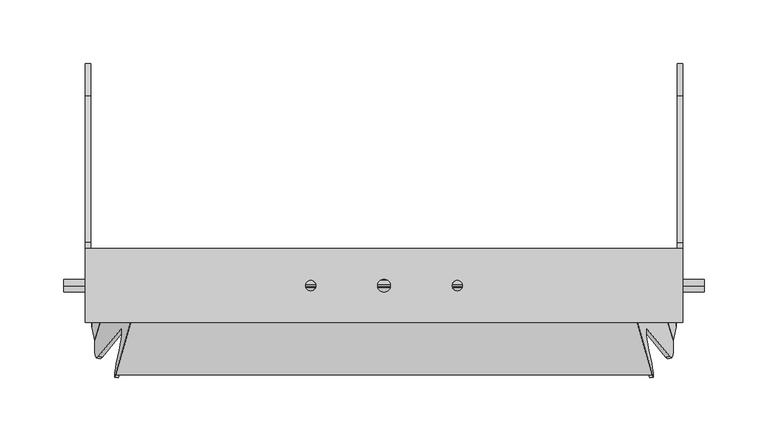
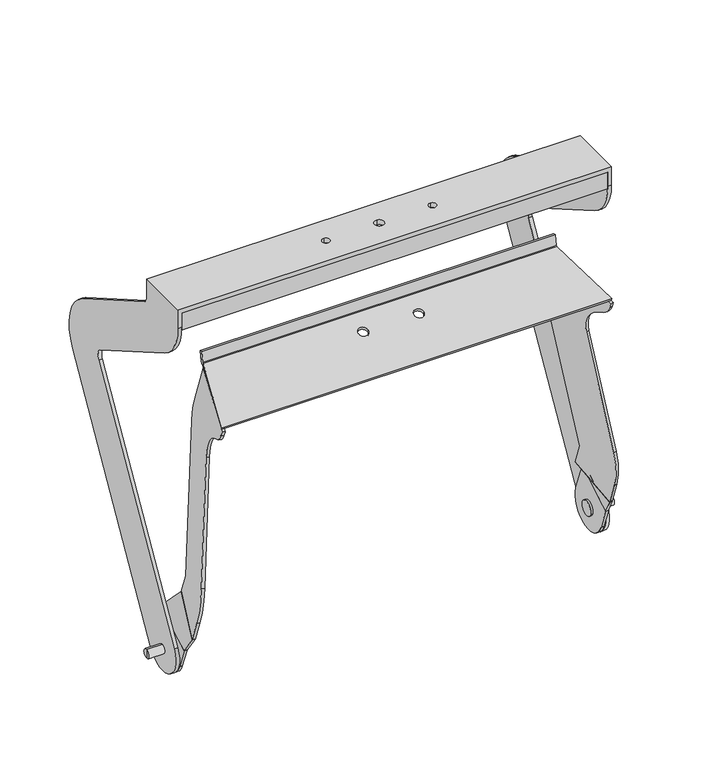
"""IFC4 building model written with IfcOpenShell, lengths in millimetres: proxy geometry, d&b M-Series M6 Flying Bracket : M6 Flying Bracket."""

from ifc_helpers import new_model, si_unit, point, frame, frame_2d, origin, place, context, project, spatial, polyline, circle_curve, trimmed, segment, composite_curve, outline, extrude, source, transform, mapped, element, save
from ifc_brep_helpers import plane_surface, cylinder_surface, revolved_surface, spline_surface, advanced_brep


def communication_devices_43ad5a2a(model_context):
    return source(origin(), model_context, "Body", "SolidModel", [
        advanced_brep(
        [(226.0004126, 11.9130603, 410.3597447), (228.9943528, 11.9797258, 410.2427054), (228.9935695, -32.0897177, 385.1408344), (225.9996292, -32.1563832, 385.2578738), (210.7972831, -1.2021325, 427.8894224), (223.7382354, -43.5704321, 403.0864598), (226.6360129, -42.8408011, 403.3520238), (213.6950606, -0.4725015, 428.1549864)],
        [
            (0, 1),
            (1, 2),
            (2, 3),
            (3, 0),
            (4, 5),
            (5, 6),
            (6, 7),
            (7, 4),
            (7, 1),
            (0, 4),
            (5, 3),
            (2, 6),
        ],
        [
            plane_surface(frame((227.496991, -10.0883287, 397.7502896), z_axis=(-0.044943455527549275, 0.4944399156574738, -0.8680491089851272), x_axis=(-1.5446243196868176e-05, -0.8689274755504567, -0.4949394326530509))),
            plane_surface(frame((218.716648, -22.0214668, 415.6207231), z_axis=(0.044943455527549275, -0.4944399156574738, 0.8680491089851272), x_axis=(-1.5446243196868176e-05, -0.8689274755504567, -0.4949394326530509))),
            spline_surface(1, 1, [[(210.7972831, -1.2021325, 427.8894224), (226.0004126, 11.9130603, 410.3597447)], [(213.6950606, -0.4725015, 428.1549864), (228.9943528, 11.9797258, 410.2427054)]], [2, 2], [2, 2], [0.0, 1.0], [0.0, 1.0]),
            spline_surface(1, 1, [[(226.6360129, -42.8408011, 403.3520238), (228.9935695, -32.0897177, 385.1408344)], [(223.7382354, -43.5704321, 403.0864598), (225.9996292, -32.1563832, 385.2578738)]], [2, 2], [2, 2], [0.0, 1.0], [0.0, 1.0]),
            spline_surface(1, 1, [[(223.7382354, -43.5704321, 403.0864598), (225.9996292, -32.1563832, 385.2578738)], [(210.7972831, -1.2021325, 427.8894224), (226.0004126, 11.9130603, 410.3597447)]], [2, 2], [2, 2], [0.0, 1.0], [0.0, 1.0]),
            spline_surface(1, 1, [[(213.6950606, -0.4725015, 428.1549864), (228.9943528, 11.9797258, 410.2427054)], [(226.6360129, -42.8408011, 403.3520238), (228.9935695, -32.0897177, 385.1408344)]], [2, 2], [2, 2], [0.0, 1.0], [0.0, 1.0]),
        ],
        [
            (0, [[1, 2, 3, 4]]),
            (1, [[5, 6, 7, 8]]),
            (2, [[-8, 9, -1, 10]]),
            (3, [[-6, 11, -3, 12]]),
            (4, [[-5, -10, -4, -11]]),
            (5, [[-7, -12, -2, -9]]),
        ],
    ),
        advanced_brep(
        [(-226.0004126, 11.9130603, 410.3597447), (-225.9996292, -32.1563832, 385.2578738), (-228.9935695, -32.0897177, 385.1408344), (-228.9943528, 11.9797258, 410.2427054), (-210.7972831, -1.2021325, 427.8894224), (-213.6950606, -0.4725015, 428.1549864), (-226.6360129, -42.8408011, 403.3520238), (-223.7382354, -43.5704321, 403.0864598)],
        [
            (0, 1),
            (1, 2),
            (2, 3),
            (3, 0),
            (4, 5),
            (5, 6),
            (6, 7),
            (7, 4),
            (4, 0),
            (3, 5),
            (6, 2),
            (1, 7),
        ],
        [
            plane_surface(frame((-227.496991, -10.0883287, 397.7502896), z_axis=(0.0449434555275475, 0.4944399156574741, -0.8680491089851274), x_axis=(0.9989895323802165, -0.022244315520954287, 0.0390525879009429))),
            plane_surface(frame((-218.716648, -22.0214668, 415.6207231), z_axis=(-0.0449434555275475, -0.4944399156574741, 0.8680491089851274), x_axis=(0.9989895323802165, -0.022244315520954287, 0.0390525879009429))),
            spline_surface(1, 1, [[(-213.6950606, -0.4725015, 428.1549864), (-228.9943528, 11.9797258, 410.2427054)], [(-210.7972831, -1.2021325, 427.8894224), (-226.0004126, 11.9130603, 410.3597447)]], [2, 2], [2, 2], [0.0, 1.0], [0.0, 1.0]),
            spline_surface(1, 1, [[(-223.7382354, -43.5704321, 403.0864598), (-225.9996292, -32.1563832, 385.2578738)], [(-226.6360129, -42.8408011, 403.3520238), (-228.9935695, -32.0897177, 385.1408344)]], [2, 2], [2, 2], [0.0, 1.0], [0.0, 1.0]),
            spline_surface(1, 1, [[(-210.7972831, -1.2021325, 427.8894224), (-226.0004126, 11.9130603, 410.3597447)], [(-223.7382354, -43.5704321, 403.0864598), (-225.9996292, -32.1563832, 385.2578738)]], [2, 2], [2, 2], [0.0, 1.0], [0.0, 1.0]),
            spline_surface(1, 1, [[(-226.6360129, -42.8408011, 403.3520238), (-228.9935695, -32.0897177, 385.1408344)], [(-213.6950606, -0.4725015, 428.1549864), (-228.9943528, 11.9797258, 410.2427054)]], [2, 2], [2, 2], [0.0, 1.0], [0.0, 1.0]),
        ],
        [
            (0, [[1, 2, 3, 4]]),
            (1, [[5, 6, 7, 8]]),
            (2, [[-5, 9, -4, 10]]),
            (3, [[-7, 11, -2, 12]]),
            (4, [[-8, -12, -1, -9]]),
            (5, [[-6, -10, -3, -11]]),
        ],
    ),
        extrude(outline(composite_curve([segment(polyline([(104.5689879, 0.0), (180.1971911, 0.0), (180.1971912, -6.0833656)]), True, "CONTINUOUS"), segment(trimmed(circle_curve(frame_2d((162.8141161, -6.0833657)), 17.383075), [point((180.1971912, -6.0833656))], [point((175.3152275, -18.1620042))], False, "CARTESIAN"), True, "CONTINUOUS"), segment(polyline([(175.3152275, -18.1620042), (167.0292159, -26.7378345)]), True, "CONTINUOUS"), segment(trimmed(circle_curve(frame_2d((188.6038419, -47.5833499)), 30.0), [point((167.0292159, -26.7378345))], [point((162.6230798, -62.58335))], True, "CARTESIAN"), True, "CONTINUOUS"), segment(polyline([(162.6230798, -62.58335), (229.5617624, -178.5245492)]), True, "CONTINUOUS"), segment(trimmed(circle_curve(frame_2d((160.2797302, -218.5245492)), 80.0), [point((229.5617624, -178.5245492))], [point((240.2797302, -218.5245492))], False, "CARTESIAN"), True, "CONTINUOUS"), segment(polyline([(240.2797302, -218.5245492), (240.2797302, -244.0319149), (190.2797301, -235.2155659), (190.2797302, -210.4860734), (111.2677177, -73.6332533)]), True, "CONTINUOUS"), segment(trimmed(circle_curve(frame_2d((154.5689878, -48.6332534)), 50.0), [point((111.2677177, -73.6332533))], [point((104.5689879, -48.6332533))], False, "CARTESIAN"), True, "CONTINUOUS"), segment(polyline([(104.5689879, -48.6332533), (104.5689879, 0.0)]), True, "CONTINUOUS")], self_intersect=False)), frame((-161.5492651, 91.0612501, 711.7817243), z_axis=(-0.9659258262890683, 0.2432103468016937, 0.08852132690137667), x_axis=(-0.25881904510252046, -0.907673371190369, -0.3303660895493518)), (0.0, 0.0, 1.0), 3.0),
        extrude(outline(composite_curve([segment(trimmed(circle_curve(frame_2d((-1e-07, -8.2)), 8.2), [point((-1e-07, -16.4))], [point((0.0, 0.0))], False, "CARTESIAN"), True, "CONTINUOUS"), segment(trimmed(circle_curve(frame_2d((-1e-07, -8.2)), 8.2), [point((0.0, 0.0))], [point((-1e-07, -16.4))], False, "CARTESIAN"), True, "CONTINUOUS")], self_intersect=False)), frame((-225.9992946, -7.7048322, 367.1925312), z_axis=(0.9999999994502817, -7.2124909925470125e-06, 3.236381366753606e-05), x_axis=(-3.287885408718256e-05, -0.34202014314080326, 0.9396926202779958)), (0.0, 0.0, 1.0), 2.2918383),
        extrude(outline(composite_curve([segment(polyline([(-23.5008597, 361.4729723), (-32.1604625, 385.2650355), (11.9175993, 410.3517759), (23.4837713, 378.5739795)]), True, "CONTINUOUS"), segment(trimmed(circle_curve(frame_2d((-0.0085442, 370.0234759)), 25.0), [point((23.4837713, 378.5739795))], [point((-23.5008597, 361.4729723))], False, "CARTESIAN"), True, "CONTINUOUS")], self_intersect=False)), frame((-229.0, 0.0, 0.0), z_axis=(1.0, 0.0, 0.0), x_axis=(0.0, 1.0, 0.0)), (0.0, 0.0, 1.0), 3.0),
        extrude(outline(composite_curve([segment(polyline([(-48.6332534, 0.0), (0.0, 0.0)]), True, "CONTINUOUS"), segment(trimmed(circle_curve(frame_2d((0.0, -50.0)), 50.0), [point((0.0, 0.0))], [point((25.0, -6.6987298))], False, "CARTESIAN"), True, "CONTINUOUS"), segment(polyline([(25.0, -6.6987298), (161.85282, -85.7107423), (186.5823125, -85.7107423), (195.3986616, -135.7107423), (169.8912959, -135.7107423)]), True, "CONTINUOUS"), segment(trimmed(circle_curve(frame_2d((169.8912958, -55.7107423)), 80.0), [point((169.8912959, -135.7107423))], [point((129.8912959, -124.9927745))], False, "CARTESIAN"), True, "CONTINUOUS"), segment(polyline([(129.8912959, -124.9927745), (13.9500966, -58.054092)]), True, "CONTINUOUS"), segment(trimmed(circle_curve(frame_2d((-1.0499034, -84.0348541)), 30.0), [point((13.9500966, -58.054092))], [point((-21.8954188, -62.460228))], True, "CARTESIAN"), True, "CONTINUOUS"), segment(polyline([(-21.8954188, -62.460228), (-30.4712491, -70.7462396)]), True, "CONTINUOUS"), segment(trimmed(circle_curve(frame_2d((-42.5498876, -58.2451282)), 17.383075), [point((-30.4712491, -70.7462396))], [point((-42.5498877, -75.6282033))], False, "CARTESIAN"), True, "CONTINUOUS"), segment(polyline([(-42.5498877, -75.6282033), (-48.6332533, -75.6282032), (-48.6332534, 0.0)]), True, "CONTINUOUS")], self_intersect=False)), frame((188.6137106, 12.7803166, 631.5353674), z_axis=(0.9659258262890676, 0.2432103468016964, 0.08852132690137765), x_axis=(0.0, 0.3420201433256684, -0.9396926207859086)), (0.0, 0.0, 1.0), 3.0),
        extrude(outline(composite_curve([segment(trimmed(circle_curve(frame_2d((0.0, -8.2)), 8.2), [point((1e-07, -16.4))], [point((0.0, 0.0))], False, "CARTESIAN"), True, "CONTINUOUS"), segment(trimmed(circle_curve(frame_2d((0.0, -8.2)), 8.2), [point((0.0, 0.0))], [point((1e-07, -16.4))], False, "CARTESIAN"), True, "CONTINUOUS")], self_intersect=False)), frame((225.9970197, -7.7048317, 367.1925314), z_axis=(-0.9999999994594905, -1.1245230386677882e-05, 3.089601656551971e-05), x_axis=(-3.287885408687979e-05, 0.34202014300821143, -0.9396926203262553)), (0.0, 0.0, 1.0), 2.2727968),
        extrude(outline(composite_curve([segment(polyline([(-23.5008597, 361.4729723), (-32.1604625, 385.2650355), (11.9175993, 410.3517759), (23.4837713, 378.5739795)]), True, "CONTINUOUS"), segment(trimmed(circle_curve(frame_2d((-0.0085442, 370.0234759)), 25.0), [point((23.4837713, 378.5739795))], [point((-23.5008597, 361.4729723))], False, "CARTESIAN"), True, "CONTINUOUS")], self_intersect=False)), frame((226.0, 0.0, 0.0), z_axis=(1.0, 0.0, 0.0), x_axis=(0.0, 1.0, 0.0)), (0.0, 0.0, 1.0), 3.0),
        advanced_brep(
        [(-190.7794274, -1.5823421, 681.2547476), (-210.3312721, -70.1502823, 656.2980584), (210.3312721, -70.1502823, 656.2980584), (190.7794274, -1.5823421, 681.2547476), (24.75, -22.2476505, 673.7331905), (35.25, -22.2476505, 673.7331905), (-24.75, -22.2476505, 673.7331905), (-35.25, -22.2476505, 673.7331905), (190.7794274, -0.5562817, 678.4356698), (210.3312721, -69.1242219, 653.4789805), (-210.3312721, -69.1242219, 653.4789805), (-190.7794274, -0.5562817, 678.4356698), (35.25, -21.2215901, 670.9141126), (24.75, -21.2215901, 670.9141126), (-35.25, -21.2215901, 670.9141126), (-24.75, -21.2215901, 670.9141126), (-190.7794274, 1.0439706, 693.2699218), (-190.7794274, 3.9983938, 692.7489773), (-190.7794274, 2.0148687, 681.4998476), (-190.7794274, -0.9395545, 682.0207921), (190.7794274, 1.0439706, 693.2699218), (190.7794274, -0.9395545, 682.0207921), (190.7794274, 2.0148687, 681.4998476), (190.7794274, 3.9983938, 692.7489773)],
        [
            (0, 1),
            (1, 2),
            (2, 3),
            (3, 0),
            (4, 5, circle_curve(frame((30.0, -22.2476505, 673.7331905), z_axis=(0.0, 0.34202014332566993, -0.9396926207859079), x_axis=(-1.0, 0.0, 0.0)), 5.25)),
            (5, 4, circle_curve(frame((30.0, -22.2476505, 673.7331905), z_axis=(0.0, 0.34202014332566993, -0.9396926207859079), x_axis=(-1.0, 0.0, 0.0)), 5.25)),
            (6, 7, circle_curve(frame((-30.0, -22.2476505, 673.7331905), z_axis=(0.0, 0.34202014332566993, -0.9396926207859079), x_axis=(1.0, 0.0, 0.0)), 5.25)),
            (7, 6, circle_curve(frame((-30.0, -22.2476505, 673.7331905), z_axis=(0.0, 0.34202014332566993, -0.9396926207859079), x_axis=(1.0, 0.0, 0.0)), 5.25)),
            (8, 9),
            (9, 10),
            (10, 11),
            (11, 8),
            (12, 13, circle_curve(frame((30.0, -21.2215901, 670.9141126), z_axis=(0.0, -0.34202014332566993, 0.9396926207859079), x_axis=(-1.0, 0.0, 0.0)), 5.25)),
            (13, 12, circle_curve(frame((30.0, -21.2215901, 670.9141126), z_axis=(0.0, -0.34202014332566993, 0.9396926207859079), x_axis=(-1.0, 0.0, 0.0)), 5.25)),
            (14, 15, circle_curve(frame((-30.0, -21.2215901, 670.9141126), z_axis=(0.0, -0.34202014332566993, 0.9396926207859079), x_axis=(1.0, 0.0, 0.0)), 5.25)),
            (15, 14, circle_curve(frame((-30.0, -21.2215901, 670.9141126), z_axis=(0.0, -0.34202014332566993, 0.9396926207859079), x_axis=(1.0, 0.0, 0.0)), 5.25)),
            (1, 10),
            (9, 2),
            (16, 17),
            (17, 18),
            (18, 11, circle_curve(frame((-190.7794274, -1.9243625, 682.1944403), z_axis=(-1.0, 0.0, 0.0), x_axis=(0.0, -0.9396926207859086, -0.3420201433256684)), 4.0000002)),
            (11, 0),
            (0, 19, circle_curve(frame((-190.7794274, -1.9243625, 682.1944403), z_axis=(1.0, 0.0, 0.0), x_axis=(0.0, -0.9396926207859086, -0.3420201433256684)), 1.0000002)),
            (19, 16),
            (20, 21),
            (21, 3, circle_curve(frame((190.7794274, -1.9243625, 682.1944403), z_axis=(-1.0, 0.0, 0.0), x_axis=(0.0, -0.9396926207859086, -0.3420201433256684)), 1.0000002)),
            (3, 8),
            (8, 22, circle_curve(frame((190.7794274, -1.9243625, 682.1944403), z_axis=(1.0, 0.0, 0.0), x_axis=(0.0, -0.9396926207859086, -0.3420201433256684)), 4.0000002)),
            (22, 23),
            (23, 20),
            (16, 20),
            (23, 17),
            (22, 18),
            (21, 19),
            (12, 5),
            (4, 13),
            (14, 7),
            (6, 15),
        ],
        [
            plane_surface(frame((-115.0144144, -1.5823421, 681.2547476), z_axis=(0.0, -0.34202014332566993, 0.9396926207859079), x_axis=(-1.0, 0.0, 0.0))),
            plane_surface(frame((-115.0144144, -0.5562817, 678.4356698), z_axis=(0.0, 0.34202014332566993, -0.9396926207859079), x_axis=(1.0, 0.0, 0.0))),
            plane_surface(frame((-210.3312721, -70.1502823, 656.2980584), z_axis=(0.0, -0.9396926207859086, -0.3420201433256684), x_axis=(0.0, 0.3420201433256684, -0.9396926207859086))),
            plane_surface(frame((-190.7794274, 3.9983938, 692.7489773), z_axis=(-1.0, 0.0, 0.0), x_axis=(0.0, 0.9848077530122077, -0.1736481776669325))),
            plane_surface(frame((190.7794274, 3.9983938, 692.7489773), z_axis=(1.0, 0.0, 0.0), x_axis=(0.0, -0.9848077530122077, 0.1736481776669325))),
            plane_surface(frame((-190.7794274, 1.0439706, 693.2699218), z_axis=(0.0, 0.1736481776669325, 0.9848077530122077), x_axis=(1.0, 0.0, 0.0))),
            plane_surface(frame((-190.7794274, 3.9983938, 692.7489773), z_axis=(0.0, 0.9848077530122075, -0.1736481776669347), x_axis=(1.0, 0.0, 0.0))),
            cylinder_surface(frame((190.7794274, -1.9243625, 682.1944403), z_axis=(-1.0, 0.0, 0.0), x_axis=(0.0, -0.9396926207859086, -0.3420201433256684)), 4.0000002),
            revolved_surface(polyline([(190.7794274, -2.8640553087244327, 681.8524200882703), (-190.7794274, -2.8640553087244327, 681.8524200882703)]), (190.7794274, -1.9243625, 682.1944403), (1.0, 0.0, 0.0)),
            plane_surface(frame((-190.7794274, -0.9395545, 682.0207921), z_axis=(0.0, -0.9848077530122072, 0.1736481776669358), x_axis=(1.0, 0.0, 0.0))),
            plane_surface(frame((-190.7794274, -1.5823421, 681.2547476), z_axis=(-0.9659258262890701, 0.24321034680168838, 0.08852132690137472), x_axis=(0.0, 0.3420201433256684, -0.9396926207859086))),
            plane_surface(frame((210.3312721, -70.1502823, 656.2980584), z_axis=(0.9659258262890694, 0.2432103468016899, 0.08852132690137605), x_axis=(0.0, 0.34202014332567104, -0.9396926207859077))),
            revolved_surface(polyline([(24.75, -22.24765053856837, 673.7331904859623), (24.75, -21.2215901, 670.9141126)]), (30.0, -21.2215901, 670.9141126), (0.0, -0.34202014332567, 0.9396926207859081)),
            revolved_surface(polyline([(-24.75, -22.24765053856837, 673.7331904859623), (-24.75, -21.2215901, 670.9141126)]), (-30.0, -21.2215901, 670.9141126), (0.0, -0.34202014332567, 0.9396926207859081)),
        ],
        [
            (0, [[1, 2, 3, 4], [5, 6], [7, 8]]),
            (1, [[9, 10, 11, 12], [13, 14], [15, 16]]),
            (2, [[-2, 17, -10, 18]]),
            (3, [[19, 20, 21, 22, 23, 24]]),
            (4, [[25, 26, 27, 28, 29, 30]]),
            (5, [[-19, 31, -30, 32]]),
            (6, [[-20, -32, -29, 33]]),
            (7, [[-21, -33, -28, -12]]),
            (8, [[-23, -4, -26, 34]]),
            (9, [[-24, -34, -25, -31]]),
            (10, [[-1, -22, -11, -17]]),
            (11, [[-3, -18, -9, -27]]),
            (12, [[35, -5, 36, -13]]),
            (12, [[-35, -14, -36, -6]]),
            (13, [[37, -7, 38, -15]]),
            (13, [[-37, -16, -38, -8]]),
        ],
    ),
        advanced_brep(
        [(229.9958719, 21.4505375, 357.6155643), (229.9958719, -21.8496092, 382.6146502), (229.9958719, 119.2534555, 627.0339608), (229.9958719, 115.5929931, 640.6938878), (229.9958719, -4.0, 709.7409269), (229.9958719, -29.0, 753.0421971), (229.9958719, -29.0, 769.0421971), (229.9958719, 29.0, 769.0421971), (229.9958719, 29.0, 754.1968976), (229.9958719, 34.0, 745.5366436), (229.9958719, 149.2613382, 678.9904776), (229.9958719, 167.5626065, 610.6892103), (233.9958719, 167.5626065, 610.6892103), (233.9958719, 21.4505375, 357.6155643), (233.9958719, 149.2613382, 678.9904776), (233.9958719, 119.2534555, 627.0339608), (233.9958719, 115.5929931, 640.6938878), (233.9958719, -21.8496092, 382.6146502), (233.9958719, 34.0, 745.5366436), (233.9958719, 29.0, 754.1968976), (233.9958719, -4.0, 709.7409269), (233.9958719, -29.0, 753.0421971), (233.9958719, 29.0, 774.0421971), (-233.9958719, 29.0, 774.0421971), (-233.9958719, -29.0, 774.0421971), (233.9958719, -29.0, 774.0421971), (-57.5, -4.0277425, 774.0421971), (-57.5, 4.0277425, 774.0421971), (0.0, -5.0, 774.0421971), (0.0, 5.0, 774.0421971), (57.5, -4.0, 774.0421971), (57.5, 4.0, 774.0421971), (-229.9958719, -29.0, 769.0421971), (-229.9958719, 29.0, 769.0421971), (-57.5, -4.0277425, 769.0421971), (-57.5, 4.0277425, 769.0421971), (0.0, -5.0, 769.0421971), (0.0, 5.0, 769.0421971), (57.5, -4.0, 769.0421971), (57.5, 4.0, 769.0421971), (-229.9958719, 29.0, 754.1968976), (-233.9958719, 29.0, 754.1968976), (-233.9958719, 34.0, 745.5366436), (-233.9958719, 149.2613397, 678.9904781), (-233.9958719, 167.5626099, 610.6892079), (-233.9958719, 21.4504736, 357.6155643), (-233.9958719, -21.8497087, 382.6137924), (-233.9958719, 119.2534368, 627.0339741), (-233.9958719, 115.5929847, 640.693885), (-233.9958719, -4.0, 709.7409269), (-233.9958719, -29.0, 753.0421971), (-229.9958719, -29.0, 753.0421971), (-229.9958719, 21.4504736, 357.6155643), (-229.9958719, 167.5626099, 610.6892079), (-229.9958719, 149.2613397, 678.9904781), (-229.9958719, 34.0, 745.5366436), (-229.9958719, -4.0, 709.7409269), (-229.9958719, 115.5929847, 640.693885), (-229.9958719, 119.2534368, 627.0339741), (-229.9958719, -21.8497087, 382.6137924)],
        [
            (0, 1, circle_curve(frame((229.9958719, -0.1993569, 370.1154171), z_axis=(-1.0, 0.0, 0.0), x_axis=(0.0, 1.0, 0.0)), 24.999285)),
            (1, 2),
            (2, 3, circle_curve(frame((229.9958719, 110.5929927, 632.0336212), z_axis=(1.0, 0.0, 0.0), x_axis=(0.0, 1.0, 0.0)), 10.0000111)),
            (3, 4),
            (4, 5, circle_curve(frame((229.9958719, 21.0, 753.0421971), z_axis=(-1.0, 0.0, 0.0), x_axis=(0.0, 1.0, 0.0)), 50.0)),
            (5, 6),
            (6, 7),
            (7, 8),
            (8, 9, circle_curve(frame((229.9958719, 39.0, 754.1968976), z_axis=(1.0, 0.0, 0.0), x_axis=(0.0, 1.0, 0.0)), 10.0)),
            (9, 10),
            (10, 11, circle_curve(frame((229.9958719, 124.2613382, 635.6892096), z_axis=(-1.0, 0.0, 0.0), x_axis=(0.0, 1.0, 0.0)), 49.999998)),
            (11, 0),
            (11, 12),
            (12, 13),
            (13, 0),
            (10, 14),
            (14, 12, circle_curve(frame((233.9958719, 124.2613382, 635.6892096), z_axis=(-1.0, 0.0, 0.0), x_axis=(0.0, 1.0, 0.0)), 49.999998)),
            (2, 15),
            (15, 16, circle_curve(frame((233.9958719, 110.5929927, 632.0336212), z_axis=(1.0, 0.0, 0.0), x_axis=(0.0, 1.0, 0.0)), 10.0000111)),
            (16, 3),
            (1, 17),
            (17, 15),
            (9, 18),
            (18, 14),
            (8, 19),
            (19, 18, circle_curve(frame((233.9958719, 39.0, 754.1968976), z_axis=(1.0, 0.0, 0.0), x_axis=(0.0, 1.0, 0.0)), 10.0)),
            (4, 20),
            (20, 21, circle_curve(frame((233.9958719, 21.0, 753.0421971), z_axis=(-1.0, 0.0, 0.0), x_axis=(0.0, 1.0, 0.0)), 50.0)),
            (21, 5),
            (16, 20),
            (13, 17, circle_curve(frame((233.9958719, -0.1993569, 370.1154171), z_axis=(-1.0, 0.0, 0.0), x_axis=(0.0, 1.0, 0.0)), 24.999285)),
            (22, 23),
            (23, 24),
            (24, 25),
            (25, 22),
            (26, 27, circle_curve(frame((-57.5, 0.0, 774.0421971), z_axis=(0.0, 0.0, -1.0), x_axis=(0.0, 1.0, 0.0)), 4.0277425)),
            (27, 26, circle_curve(frame((-57.5, 0.0, 774.0421971), z_axis=(0.0, 0.0, -1.0), x_axis=(0.0, 1.0, 0.0)), 4.0277425)),
            (28, 29, circle_curve(frame((0.0, 0.0, 774.0421971), z_axis=(0.0, 0.0, -1.0), x_axis=(0.0, 1.0, 0.0)), 5.0)),
            (29, 28, circle_curve(frame((0.0, 0.0, 774.0421971), z_axis=(0.0, 0.0, -1.0), x_axis=(0.0, 1.0, 0.0)), 5.0)),
            (30, 31, circle_curve(frame((57.5, 0.0, 774.0421971), z_axis=(0.0, 0.0, -1.0), x_axis=(0.0, 1.0, 0.0)), 4.0)),
            (31, 30, circle_curve(frame((57.5, 0.0, 774.0421971), z_axis=(0.0, 0.0, -1.0), x_axis=(0.0, 1.0, 0.0)), 4.0)),
            (32, 33),
            (33, 7),
            (6, 32),
            (34, 35, circle_curve(frame((-57.5, 0.0, 769.0421971), z_axis=(0.0, 0.0, 1.0), x_axis=(0.0, 1.0, 0.0)), 4.0277425)),
            (35, 34, circle_curve(frame((-57.5, 0.0, 769.0421971), z_axis=(0.0, 0.0, 1.0), x_axis=(0.0, 1.0, 0.0)), 4.0277425)),
            (36, 37, circle_curve(frame((0.0, 0.0, 769.0421971), z_axis=(0.0, 0.0, 1.0), x_axis=(0.0, 1.0, 0.0)), 5.0)),
            (37, 36, circle_curve(frame((0.0, 0.0, 769.0421971), z_axis=(0.0, 0.0, 1.0), x_axis=(0.0, 1.0, 0.0)), 5.0)),
            (38, 39, circle_curve(frame((57.5, 0.0, 769.0421971), z_axis=(0.0, 0.0, 1.0), x_axis=(0.0, 1.0, 0.0)), 4.0)),
            (39, 38, circle_curve(frame((57.5, 0.0, 769.0421971), z_axis=(0.0, 0.0, 1.0), x_axis=(0.0, 1.0, 0.0)), 4.0)),
            (22, 19),
            (33, 40),
            (40, 41),
            (41, 23),
            (41, 42, circle_curve(frame((-233.9958719, 39.0, 754.1968976), z_axis=(1.0, 0.0, 0.0), x_axis=(0.0, 1.0, 0.0)), 10.0)),
            (42, 43),
            (43, 44, circle_curve(frame((-233.9958719, 124.2613397, 635.6892079), z_axis=(-1.0, 0.0, 0.0), x_axis=(0.0, 1.0, 0.0)), 50.0)),
            (44, 45),
            (45, 46, circle_curve(frame((-233.9958719, -0.1993699, 370.1151072), z_axis=(-1.0, 0.0, 0.0), x_axis=(0.0, 1.0, 0.0)), 24.9990859)),
            (46, 47),
            (47, 48, circle_curve(frame((-233.9958719, 110.5929847, 632.0336309), z_axis=(1.0, 0.0, 0.0), x_axis=(0.0, 1.0, 0.0)), 10.0)),
            (48, 49),
            (49, 50, circle_curve(frame((-233.9958719, 21.0, 753.0421971), z_axis=(-1.0, 0.0, 0.0), x_axis=(0.0, 1.0, 0.0)), 50.0)),
            (50, 24),
            (50, 51),
            (51, 32),
            (21, 25),
            (26, 34),
            (35, 27),
            (28, 36),
            (37, 29),
            (30, 38),
            (39, 31),
            (52, 53),
            (53, 54, circle_curve(frame((-229.9958719, 124.2613397, 635.6892079), z_axis=(1.0, 0.0, 0.0), x_axis=(0.0, 1.0, 0.0)), 50.0)),
            (54, 55),
            (55, 40, circle_curve(frame((-229.9958719, 39.0, 754.1968976), z_axis=(-1.0, 0.0, 0.0), x_axis=(0.0, 1.0, 0.0)), 10.0)),
            (51, 56, circle_curve(frame((-229.9958719, 21.0, 753.0421971), z_axis=(1.0, 0.0, 0.0), x_axis=(0.0, 1.0, 0.0)), 50.0)),
            (56, 57),
            (57, 58, circle_curve(frame((-229.9958719, 110.5929847, 632.0336309), z_axis=(-1.0, 0.0, 0.0), x_axis=(0.0, 1.0, 0.0)), 10.0)),
            (58, 59),
            (59, 52, circle_curve(frame((-229.9958719, -0.1993699, 370.1151072), z_axis=(1.0, 0.0, 0.0), x_axis=(0.0, 1.0, 0.0)), 24.9990859)),
            (52, 45),
            (44, 53),
            (58, 47),
            (46, 59),
            (43, 54),
            (57, 48),
            (56, 49),
            (55, 42),
        ],
        [
            plane_surface(frame((229.9958719, 167.5626065, 610.6892103), z_axis=(-1.0, 0.0, 0.0), x_axis=(0.0, -0.499999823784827, -0.8660255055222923))),
            plane_surface(frame((233.9958719, 21.4505375, 357.6155643), z_axis=(0.0, 0.8660255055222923, -0.499999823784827), x_axis=(-1.0, 0.0, 0.0))),
            cylinder_surface(frame((229.9958719, 124.2613382, 635.6892096), z_axis=(1.0, 0.0, 0.0), x_axis=(0.0, 1.0, 0.0)), 49.999998),
            revolved_surface(polyline([(229.9958719, 120.59300379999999, 632.0336212), (233.9958719, 120.59300379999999, 632.0336212)]), (229.9958719, 110.5929927, 632.0336212), (-1.0, 0.0, 0.0)),
            plane_surface(frame((233.9958719, 119.2534555, 627.0339608), z_axis=(0.0, -0.8660445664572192, 0.49996680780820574), x_axis=(-1.0, 0.0, 0.0))),
            plane_surface(frame((233.9958719, 149.2613382, 678.9904776), z_axis=(0.0, 0.500000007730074, 0.8660253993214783), x_axis=(-1.0, 0.0, 0.0))),
            revolved_surface(polyline([(229.9958719, 49.0, 754.1968976), (233.9958719, 49.0, 754.1968976)]), (229.9958719, 39.0, 754.1968976), (-1.0, 0.0, 0.0)),
            cylinder_surface(frame((229.9958719, 21.0, 753.0421971), z_axis=(1.0, 0.0, 0.0), x_axis=(0.0, 1.0, 0.0)), 50.0),
            plane_surface(frame((233.9958719, -4.0, 709.7409269), z_axis=(0.0, -0.49999995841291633, -0.8660254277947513), x_axis=(-1.0, 0.0, 0.0))),
            cylinder_surface(frame((229.9958719, -0.1993569, 370.1154171), z_axis=(1.0, 0.0, 0.0), x_axis=(0.0, 1.0, 0.0)), 24.999285),
            plane_surface(frame((-87.0082463, 29.0, 774.0421971), z_axis=(0.0, 0.0, 1.0), x_axis=(-1.0, 0.0, 0.0))),
            plane_surface(frame((-87.0082463, 29.0, 769.0421971), z_axis=(0.0, 0.0, -1.0), x_axis=(1.0, 0.0, 0.0))),
            plane_surface(frame((233.9958719, 29.0, 774.0421971), z_axis=(0.0, 1.0, 0.0), x_axis=(0.0, 0.0, -1.0))),
            plane_surface(frame((-233.9958719, 29.0, 774.0421971), z_axis=(-1.0, 0.0, 0.0), x_axis=(0.0, 0.0, -1.0))),
            plane_surface(frame((-233.9958719, -29.0, 774.0421971), z_axis=(0.0, -1.0, 0.0), x_axis=(0.0, 0.0, -1.0))),
            plane_surface(frame((233.9958719, -29.0, 774.0421971), z_axis=(1.0, 0.0, 0.0), x_axis=(0.0, 0.0, -1.0))),
            revolved_surface(polyline([(-57.5, 4.0277425, 769.0421971), (-57.5, 4.0277425, 774.0421971)]), (-57.5, 0.0, 774.0421971), (0.0, 0.0, -1.0)),
            revolved_surface(polyline([(0.0, 5.0, 769.0421971), (0.0, 5.0, 774.0421971)]), (0.0, 0.0, 774.0421971), (0.0, 0.0, -1.0)),
            revolved_surface(polyline([(57.5, 4.0, 769.0421971), (57.5, 4.0, 774.0421971)]), (57.5, 0.0, 774.0421971), (0.0, 0.0, -1.0)),
            plane_surface(frame((-229.9958719, 24.799716, 370.1151072), z_axis=(1.0, 0.0, 0.0), x_axis=(0.0, 0.0, 1.0))),
            plane_surface(frame((-233.9958719, 167.5626099, 610.6892079), z_axis=(0.0, 0.866025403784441, -0.49999999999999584), x_axis=(1.0, 0.0, 0.0))),
            plane_surface(frame((-233.9958719, -21.8497087, 382.6137924), z_axis=(0.0, -0.866045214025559, 0.49996568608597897), x_axis=(1.0, 0.0, 0.0))),
            cylinder_surface(frame((-229.9958719, 124.2613397, 635.6892079), z_axis=(-1.0, 0.0, 0.0), x_axis=(0.0, 1.0, 0.0)), 50.0),
            revolved_surface(polyline([(-229.9958719, 120.5929847, 632.0336309), (-233.9958719, 120.5929847, 632.0336309)]), (-229.9958719, 110.5929847, 632.0336309), (1.0, 0.0, 0.0)),
            plane_surface(frame((-233.9958719, 115.5929847, 640.693885), z_axis=(0.0, -0.4999999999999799, -0.8660254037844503), x_axis=(1.0, 0.0, 0.0))),
            cylinder_surface(frame((-229.9958719, 21.0, 753.0421971), z_axis=(-1.0, 0.0, 0.0), x_axis=(0.0, 1.0, 0.0)), 50.0),
            revolved_surface(polyline([(-229.9958719, 49.0, 754.1968976), (-233.9958719, 49.0, 754.1968976)]), (-229.9958719, 39.0, 754.1968976), (1.0, 0.0, 0.0)),
            plane_surface(frame((-233.9958719, 34.0, 745.5366436), z_axis=(0.0, 0.4999999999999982, 0.8660254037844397), x_axis=(1.0, 0.0, 0.0))),
            cylinder_surface(frame((-229.9958719, -0.1993699, 370.1151072), z_axis=(-1.0, 0.0, 0.0), x_axis=(0.0, 1.0, 0.0)), 24.9990859),
        ],
        [
            (0, [[1, 2, 3, 4, 5, 6, 7, 8, 9, 10, 11, 12]]),
            (1, [[-12, 13, 14, 15]]),
            (2, [[-11, 16, 17, -13]]),
            (3, [[-3, 18, 19, 20]]),
            (4, [[-2, 21, 22, -18]]),
            (5, [[-10, 23, 24, -16]]),
            (6, [[-9, 25, 26, -23]]),
            (7, [[-5, 27, 28, 29]]),
            (8, [[-4, -20, 30, -27]]),
            (9, [[-1, -15, 31, -21]]),
            (10, [[32, 33, 34, 35], [36, 37], [38, 39], [40, 41]]),
            (11, [[42, 43, -7, 44], [45, 46], [47, 48], [49, 50]]),
            (12, [[-32, 51, -25, -8, -43, 52, 53, 54]]),
            (13, [[-33, -54, 55, 56, 57, 58, 59, 60, 61, 62, 63, 64]]),
            (14, [[-34, -64, 65, 66, -44, -6, -29, 67]]),
            (15, [[-51, -35, -67, -28, -30, -19, -22, -31, -14, -17, -24, -26]]),
            (16, [[-36, 68, -46, 69]]),
            (16, [[-37, -69, -45, -68]]),
            (17, [[-38, 70, -48, 71]]),
            (17, [[-39, -71, -47, -70]]),
            (18, [[-40, 72, -50, 73]]),
            (18, [[-41, -73, -49, -72]]),
            (19, [[74, 75, 76, 77, -52, -42, -66, 78, 79, 80, 81, 82]]),
            (20, [[-74, 83, -58, 84]]),
            (21, [[-81, 85, -60, 86]]),
            (22, [[-75, -84, -57, 87]]),
            (23, [[-80, 88, -61, -85]]),
            (24, [[-79, 89, -62, -88]]),
            (25, [[-78, -65, -63, -89]]),
            (26, [[-77, 90, -55, -53]]),
            (27, [[-76, -87, -56, -90]]),
            (28, [[-82, -86, -59, -83]]),
        ],
    ),
        advanced_brep(
        [(-233.9958719, 0.0, 375.000001), (-233.9958719, 0.0, 365.000001), (-251.0, 0.0, 365.000001), (-251.0, 0.0, 375.000001), (-233.9958719, 0.0, 370.000001), (-251.0, 0.0, 370.000001)],
        [
            (0, 1, circle_curve(frame((-233.9958719, 0.0, 370.000001), z_axis=(-1.0, 0.0, 0.0), x_axis=(0.0, 0.0, -1.0)), 5.0)),
            (1, 2),
            (2, 3, circle_curve(frame((-251.0, 0.0, 370.000001), z_axis=(1.0, 0.0, 0.0), x_axis=(0.0, 0.0, -1.0)), 5.0)),
            (3, 0),
            (1, 0, circle_curve(frame((-233.9958719, 0.0, 370.000001), z_axis=(-1.0, 0.0, 0.0), x_axis=(0.0, 0.0, -1.0)), 5.0)),
            (3, 2, circle_curve(frame((-251.0, 0.0, 370.000001), z_axis=(1.0, 0.0, 0.0), x_axis=(0.0, 0.0, -1.0)), 5.0)),
            (4, 1),
            (0, 4),
            (2, 5),
            (5, 3),
        ],
        [
            cylinder_surface(frame((-294.5, 0.0, 370.000001), z_axis=(1.0, 0.0, 0.0), x_axis=(0.0, 0.0, -1.0)), 5.0),
            plane_surface(frame((-233.9958719, 0.0, 370.000001), z_axis=(1.0, 0.0, 0.0), x_axis=(0.0, 0.0, -1.0))),
            plane_surface(frame((-251.0, 0.0, 370.000001), z_axis=(-1.0, 0.0, 0.0), x_axis=(0.0, 0.0, -1.0))),
        ],
        [
            (0, [[1, 2, 3, 4]]),
            (0, [[5, -4, 6, -2]]),
            (1, [[7, -1, 8]]),
            (1, [[-8, -5, -7]]),
            (2, [[-3, 9, 10]]),
            (2, [[-6, -10, -9]]),
        ],
    ),
        advanced_brep(
        [(251.0, 0.0, 370.000001), (251.0, 0.0, 365.000001), (251.0, 0.0, 375.000001), (233.9958719, 0.0, 375.000001), (233.9958719, 0.0, 365.000001), (233.9958719, 0.0, 370.000001)],
        [
            (0, 1),
            (1, 2, circle_curve(frame((251.0, 0.0, 370.000001), z_axis=(1.0, 0.0, 0.0), x_axis=(0.0, 0.0, -1.0)), 5.0)),
            (2, 0),
            (2, 1, circle_curve(frame((251.0, 0.0, 370.000001), z_axis=(1.0, 0.0, 0.0), x_axis=(0.0, 0.0, -1.0)), 5.0)),
            (3, 4, circle_curve(frame((233.9958719, 0.0, 370.000001), z_axis=(-1.0, 0.0, 0.0), x_axis=(0.0, 0.0, -1.0)), 5.0)),
            (4, 5),
            (5, 3),
            (4, 3, circle_curve(frame((233.9958719, 0.0, 370.000001), z_axis=(-1.0, 0.0, 0.0), x_axis=(0.0, 0.0, -1.0)), 5.0)),
            (1, 4),
            (3, 2),
        ],
        [
            plane_surface(frame((251.0, 0.0, 370.000001), z_axis=(1.0, 0.0, 0.0), x_axis=(0.0, 0.0, -1.0))),
            plane_surface(frame((233.9958719, 0.0, 370.000001), z_axis=(-1.0, 0.0, 0.0), x_axis=(0.0, 0.0, -1.0))),
            cylinder_surface(frame((-294.5, 0.0, 370.000001), z_axis=(1.0, 0.0, 0.0), x_axis=(0.0, 0.0, -1.0)), 5.0),
        ],
        [
            (0, [[1, 2, 3]]),
            (0, [[-3, 4, -1]]),
            (1, [[5, 6, 7]]),
            (1, [[8, -7, -6]]),
            (2, [[-2, 9, -5, 10]]),
            (2, [[-4, -10, -8, -9]]),
        ],
    ),
        extrude(outline(polyline([(229.9958719, 29.0), (229.9958719, 24.9947219), (-229.9958719, 24.9947219), (-229.9958719, 29.0), (229.9958719, 29.0)])), frame((0.0, 0.0, 730.0421971), z_axis=(0.0, 0.0, 1.0), x_axis=(1.0, 0.0, 0.0)), (0.0, 0.0, 1.0), 39.0),
        extrude(outline(polyline([(229.9958719, -24.9947219), (229.9958719, -29.0), (-229.9958719, -29.0), (-229.9958719, -24.9947219), (229.9958719, -24.9947219)])), frame((0.0, 0.0, 750.0421971), z_axis=(0.0, 0.0, 1.0), x_axis=(1.0, 0.0, 0.0)), (0.0, 0.0, 1.0), 19.0),
    ])


if __name__ == "__main__":
    model = new_model("IFC4")
    model_context = context("Model", 3, world=origin())
    ifc_project = project(units=[si_unit("LENGTHUNIT", "METRE", prefix="MILLI")], contexts=[model_context])
    site = spatial("IfcSite", under=ifc_project)
    building = spatial("IfcBuilding", under=site)
    placement = place(None, origin())
    communication_devices_shape = communication_devices_43ad5a2a(model_context)
    element("IfcBuildingElementProxy", 1, Name="d&b M-Series M6 Flying Bracket : M6 Flying Bracket", ObjectType="d&b M-Series M6 Flying Bracket : M6 Flying Bracket", at=placement, inside=building, context=model_context, shape_type="MappedRepresentation", body=[
        mapped(communication_devices_shape, transform((0.0, 0.0, 0.0), x_axis=(1.0, 0.0, 0.0), y_axis=(0.0, 1.0, 0.0), z_axis=(0.0, 0.0, 1.0))),
    ])
    save(model, "model.ifc")
